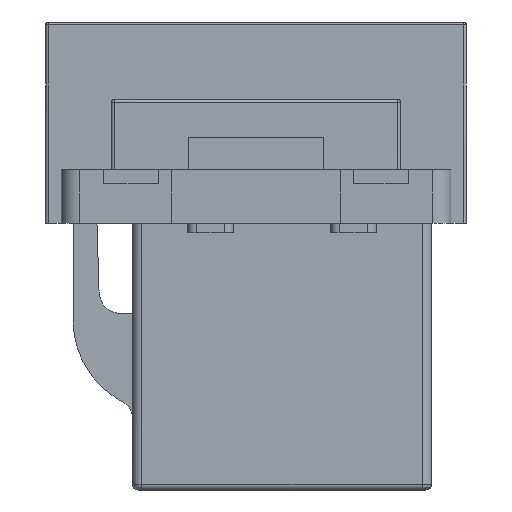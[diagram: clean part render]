
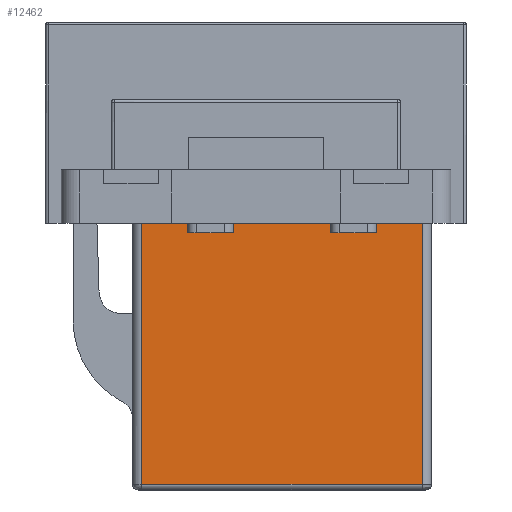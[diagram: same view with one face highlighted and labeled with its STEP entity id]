
A CAD part, left-side view. The second image highlights one B-rep face of the part: STEP entity #12462.
In plain terms, the highlighted free-form (B-spline) face has degree [1, 1] with [2, 2] control points.
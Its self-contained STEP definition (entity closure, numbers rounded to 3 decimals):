
#6146 = EDGE_CURVE('',#6147,#6149,#6151,.T.);
#6147 = VERTEX_POINT('',#6148);
#6148 = CARTESIAN_POINT('',(11.146,14.603,
    2.954));
#6149 = VERTEX_POINT('',#6150);
#6150 = CARTESIAN_POINT('',(11.146,14.603,
    5.45));
#6151 = B_SPLINE_CURVE_WITH_KNOTS('',5,(#6152,#6153,#6154,#6155,#6156,
    #6157),.UNSPECIFIED.,.F.,.F.,(6,6),(0.,2.496),
  .PIECEWISE_BEZIER_KNOTS.);
#6152 = CARTESIAN_POINT('',(11.146,14.603,
    2.954));
#6153 = CARTESIAN_POINT('',(11.146,14.603,
    3.453));
#6154 = CARTESIAN_POINT('',(11.146,14.603,
    3.952));
#6155 = CARTESIAN_POINT('',(11.146,14.603,
    4.452));
#6156 = CARTESIAN_POINT('',(11.146,14.603,
    4.951));
#6157 = CARTESIAN_POINT('',(11.146,14.603,
    5.45));
#6238 = EDGE_CURVE('',#6239,#6147,#6241,.T.);
#6239 = VERTEX_POINT('',#6240);
#6240 = CARTESIAN_POINT('',(9.647,14.603,2.954
    ));
#6241 = B_SPLINE_CURVE_WITH_KNOTS('',5,(#6242,#6243,#6244,#6245,#6246,
    #6247),.UNSPECIFIED.,.F.,.F.,(6,6),(0.,1.499),
  .PIECEWISE_BEZIER_KNOTS.);
#6242 = CARTESIAN_POINT('',(9.647,14.603,2.954
    ));
#6243 = CARTESIAN_POINT('',(9.947,14.603,2.954
    ));
#6244 = CARTESIAN_POINT('',(10.247,14.603,
    2.954));
#6245 = CARTESIAN_POINT('',(10.547,14.603,
    2.954));
#6246 = CARTESIAN_POINT('',(10.846,14.603,
    2.954));
#6247 = CARTESIAN_POINT('',(11.146,14.603,
    2.954));
#6278 = EDGE_CURVE('',#6149,#6279,#6281,.T.);
#6279 = VERTEX_POINT('',#6280);
#6280 = CARTESIAN_POINT('',(9.647,14.603,
    5.45));
#6281 = B_SPLINE_CURVE_WITH_KNOTS('',5,(#6282,#6283,#6284,#6285,#6286,
    #6287),.UNSPECIFIED.,.F.,.F.,(6,6),(0.,1.499),
  .PIECEWISE_BEZIER_KNOTS.);
#6282 = CARTESIAN_POINT('',(11.146,14.603,
    5.45));
#6283 = CARTESIAN_POINT('',(10.846,14.603,
    5.45));
#6284 = CARTESIAN_POINT('',(10.547,14.603,
    5.45));
#6285 = CARTESIAN_POINT('',(10.247,14.603,
    5.45));
#6286 = CARTESIAN_POINT('',(9.947,14.603,
    5.45));
#6287 = CARTESIAN_POINT('',(9.647,14.603,
    5.45));
#6441 = EDGE_CURVE('',#6279,#6239,#6442,.T.);
#6442 = B_SPLINE_CURVE_WITH_KNOTS('',5,(#6443,#6444,#6445,#6446,#6447,
    #6448),.UNSPECIFIED.,.F.,.F.,(6,6),(0.,2.496),
  .PIECEWISE_BEZIER_KNOTS.);
#6443 = CARTESIAN_POINT('',(9.647,14.603,
    5.45));
#6444 = CARTESIAN_POINT('',(9.647,14.603,4.951
    ));
#6445 = CARTESIAN_POINT('',(9.647,14.603,
    4.452));
#6446 = CARTESIAN_POINT('',(9.647,14.603,
    3.952));
#6447 = CARTESIAN_POINT('',(9.647,14.603,
    3.453));
#6448 = CARTESIAN_POINT('',(9.647,14.603,2.954
    ));
#6458 = EDGE_CURVE('',#6459,#6461,#6463,.T.);
#6459 = VERTEX_POINT('',#6460);
#6460 = CARTESIAN_POINT('',(11.146,14.603,
    10.653));
#6461 = VERTEX_POINT('',#6462);
#6462 = CARTESIAN_POINT('',(11.146,14.603,
    13.148));
#6463 = B_SPLINE_CURVE_WITH_KNOTS('',5,(#6464,#6465,#6466,#6467,#6468,
    #6469),.UNSPECIFIED.,.F.,.F.,(6,6),(0.,2.496),
  .PIECEWISE_BEZIER_KNOTS.);
#6464 = CARTESIAN_POINT('',(11.146,14.603,
    10.653));
#6465 = CARTESIAN_POINT('',(11.146,14.603,
    11.152));
#6466 = CARTESIAN_POINT('',(11.146,14.603,
    11.651));
#6467 = CARTESIAN_POINT('',(11.146,14.603,
    12.15));
#6468 = CARTESIAN_POINT('',(11.146,14.603,
    12.649));
#6469 = CARTESIAN_POINT('',(11.146,14.603,
    13.148));
#6550 = EDGE_CURVE('',#6551,#6459,#6553,.T.);
#6551 = VERTEX_POINT('',#6552);
#6552 = CARTESIAN_POINT('',(9.647,14.603,
    10.653));
#6553 = B_SPLINE_CURVE_WITH_KNOTS('',5,(#6554,#6555,#6556,#6557,#6558,
    #6559),.UNSPECIFIED.,.F.,.F.,(6,6),(0.,1.499),
  .PIECEWISE_BEZIER_KNOTS.);
#6554 = CARTESIAN_POINT('',(9.647,14.603,
    10.653));
#6555 = CARTESIAN_POINT('',(9.947,14.603,
    10.653));
#6556 = CARTESIAN_POINT('',(10.247,14.603,
    10.653));
#6557 = CARTESIAN_POINT('',(10.547,14.603,
    10.653));
#6558 = CARTESIAN_POINT('',(10.846,14.603,
    10.653));
#6559 = CARTESIAN_POINT('',(11.146,14.603,
    10.653));
#6590 = EDGE_CURVE('',#6461,#6591,#6593,.T.);
#6591 = VERTEX_POINT('',#6592);
#6592 = CARTESIAN_POINT('',(9.647,14.603,
    13.148));
#6593 = B_SPLINE_CURVE_WITH_KNOTS('',5,(#6594,#6595,#6596,#6597,#6598,
    #6599),.UNSPECIFIED.,.F.,.F.,(6,6),(0.,1.499),
  .PIECEWISE_BEZIER_KNOTS.);
#6594 = CARTESIAN_POINT('',(11.146,14.603,
    13.148));
#6595 = CARTESIAN_POINT('',(10.846,14.603,
    13.148));
#6596 = CARTESIAN_POINT('',(10.547,14.603,
    13.148));
#6597 = CARTESIAN_POINT('',(10.247,14.603,
    13.148));
#6598 = CARTESIAN_POINT('',(9.947,14.603,
    13.148));
#6599 = CARTESIAN_POINT('',(9.647,14.603,
    13.148));
#6753 = EDGE_CURVE('',#6591,#6551,#6754,.T.);
#6754 = B_SPLINE_CURVE_WITH_KNOTS('',5,(#6755,#6756,#6757,#6758,#6759,
    #6760),.UNSPECIFIED.,.F.,.F.,(6,6),(0.,2.496),
  .PIECEWISE_BEZIER_KNOTS.);
#6755 = CARTESIAN_POINT('',(9.647,14.603,
    13.148));
#6756 = CARTESIAN_POINT('',(9.647,14.603,
    12.649));
#6757 = CARTESIAN_POINT('',(9.647,14.603,
    12.15));
#6758 = CARTESIAN_POINT('',(9.647,14.603,
    11.651));
#6759 = CARTESIAN_POINT('',(9.647,14.603,
    11.152));
#6760 = CARTESIAN_POINT('',(9.647,14.603,
    10.653));
#11191 = VERTEX_POINT('',#11192);
#11192 = CARTESIAN_POINT('',(24.7,14.603,15.603));
#11344 = VERTEX_POINT('',#11345);
#11345 = CARTESIAN_POINT('',(24.7,14.603,0.5));
#11363 = EDGE_CURVE('',#11344,#11191,#11364,.T.);
#11364 = B_SPLINE_CURVE_WITH_KNOTS('',5,(#11365,#11366,#11367,#11368,
    #11369,#11370),.UNSPECIFIED.,.F.,.F.,(6,6),(0.,15.103),
  .PIECEWISE_BEZIER_KNOTS.);
#11365 = CARTESIAN_POINT('',(24.7,14.603,0.5));
#11366 = CARTESIAN_POINT('',(24.7,14.603,3.521));
#11367 = CARTESIAN_POINT('',(24.7,14.603,6.541));
#11368 = CARTESIAN_POINT('',(24.7,14.603,9.562));
#11369 = CARTESIAN_POINT('',(24.7,14.603,12.582));
#11370 = CARTESIAN_POINT('',(24.7,14.603,15.603));
#11984 = VERTEX_POINT('',#11985);
#11985 = CARTESIAN_POINT('',(0.3,14.603,0.5));
#12127 = VERTEX_POINT('',#12128);
#12128 = CARTESIAN_POINT('',(0.3,14.603,15.603));
#12146 = EDGE_CURVE('',#12127,#11984,#12147,.T.);
#12147 = B_SPLINE_CURVE_WITH_KNOTS('',5,(#12148,#12149,#12150,#12151,
    #12152,#12153),.UNSPECIFIED.,.F.,.F.,(6,6),(0.,15.103),
  .PIECEWISE_BEZIER_KNOTS.);
#12148 = CARTESIAN_POINT('',(0.3,14.603,15.603));
#12149 = CARTESIAN_POINT('',(0.3,14.603,12.582));
#12150 = CARTESIAN_POINT('',(0.3,14.603,9.562));
#12151 = CARTESIAN_POINT('',(0.3,14.603,6.541));
#12152 = CARTESIAN_POINT('',(0.3,14.603,3.521));
#12153 = CARTESIAN_POINT('',(0.3,14.603,0.5));
#12443 = EDGE_CURVE('',#11984,#11344,#12444,.T.);
#12444 = B_SPLINE_CURVE_WITH_KNOTS('',5,(#12445,#12446,#12447,#12448,
    #12449,#12450),.UNSPECIFIED.,.F.,.F.,(6,6),(0.,24.4),
  .PIECEWISE_BEZIER_KNOTS.);
#12445 = CARTESIAN_POINT('',(0.3,14.603,0.5));
#12446 = CARTESIAN_POINT('',(5.18,14.603,0.5));
#12447 = CARTESIAN_POINT('',(10.06,14.603,0.5));
#12448 = CARTESIAN_POINT('',(14.94,14.603,0.5));
#12449 = CARTESIAN_POINT('',(19.82,14.603,0.5));
#12450 = CARTESIAN_POINT('',(24.7,14.603,0.5));
#12462 = ADVANCED_FACE('',(#12463,#12477,#12483),#12489,.T.);
#12463 = FACE_BOUND('',#12464,.T.);
#12464 = EDGE_LOOP('',(#12465,#12466,#12467,#12468));
#12465 = ORIENTED_EDGE('',*,*,#11363,.F.);
#12466 = ORIENTED_EDGE('',*,*,#12443,.F.);
#12467 = ORIENTED_EDGE('',*,*,#12146,.F.);
#12468 = ORIENTED_EDGE('',*,*,#12469,.F.);
#12469 = EDGE_CURVE('',#11191,#12127,#12470,.T.);
#12470 = B_SPLINE_CURVE_WITH_KNOTS('',5,(#12471,#12472,#12473,#12474,
    #12475,#12476),.UNSPECIFIED.,.F.,.F.,(6,6),(0.,24.4),
  .PIECEWISE_BEZIER_KNOTS.);
#12471 = CARTESIAN_POINT('',(24.7,14.603,15.603));
#12472 = CARTESIAN_POINT('',(19.82,14.603,15.603));
#12473 = CARTESIAN_POINT('',(14.94,14.603,15.603));
#12474 = CARTESIAN_POINT('',(10.06,14.603,15.603));
#12475 = CARTESIAN_POINT('',(5.18,14.603,15.603));
#12476 = CARTESIAN_POINT('',(0.3,14.603,15.603));
#12477 = FACE_BOUND('',#12478,.T.);
#12478 = EDGE_LOOP('',(#12479,#12480,#12481,#12482));
#12479 = ORIENTED_EDGE('',*,*,#6238,.T.);
#12480 = ORIENTED_EDGE('',*,*,#6146,.T.);
#12481 = ORIENTED_EDGE('',*,*,#6278,.T.);
#12482 = ORIENTED_EDGE('',*,*,#6441,.T.);
#12483 = FACE_BOUND('',#12484,.T.);
#12484 = EDGE_LOOP('',(#12485,#12486,#12487,#12488));
#12485 = ORIENTED_EDGE('',*,*,#6550,.T.);
#12486 = ORIENTED_EDGE('',*,*,#6458,.T.);
#12487 = ORIENTED_EDGE('',*,*,#6590,.T.);
#12488 = ORIENTED_EDGE('',*,*,#6753,.T.);
#12489 = B_SPLINE_SURFACE_WITH_KNOTS('',1,1,(
    (#12490,#12491)
    ,(#12492,#12493
    )),.UNSPECIFIED.,.F.,.F.,.F.,(2,2),(2,2),(0.,1.),(0.,1.616)
  ,.PIECEWISE_BEZIER_KNOTS.);
#12490 = CARTESIAN_POINT('',(0.3,14.603,0.5));
#12491 = CARTESIAN_POINT('',(24.7,14.603,0.5));
#12492 = CARTESIAN_POINT('',(0.3,14.603,15.603));
#12493 = CARTESIAN_POINT('',(24.7,14.603,15.603));
